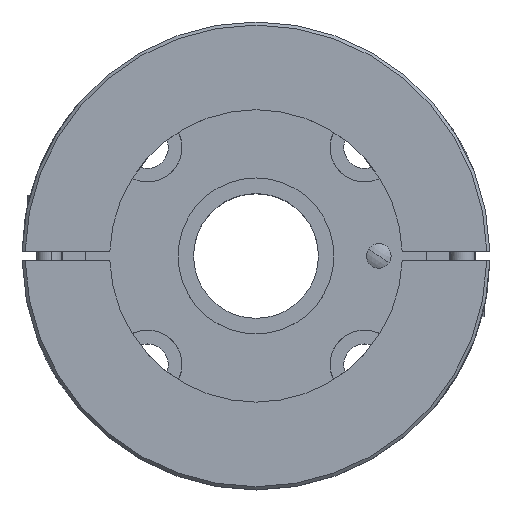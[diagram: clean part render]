
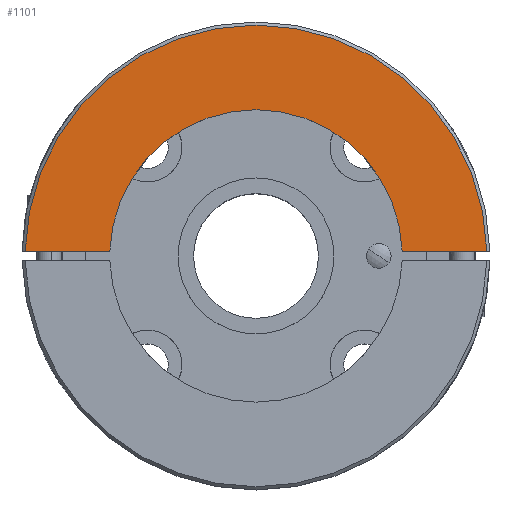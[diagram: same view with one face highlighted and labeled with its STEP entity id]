
A CAD part, top view. The second image highlights one B-rep face of the part: STEP entity #1101.
In plain terms, the highlighted planar face has unit normal (0, 0, 1).
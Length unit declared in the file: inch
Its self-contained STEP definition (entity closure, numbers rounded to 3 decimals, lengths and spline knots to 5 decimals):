
#19 = LINE ( 'NONE', #3104, #3351 ) ;
#25 = ORIENTED_EDGE ( 'NONE', *, *, #4258, .F. ) ;
#258 = VECTOR ( 'NONE', #4328, 39.37008 ) ;
#424 = DIRECTION ( 'NONE',  ( -1., 0., 0. ) ) ;
#425 = CIRCLE ( 'NONE', #3206, 1.48 ) ;
#492 = LINE ( 'NONE', #3191, #258 ) ;
#493 = VERTEX_POINT ( 'NONE', #2249 ) ;
#747 = ORIENTED_EDGE ( 'NONE', *, *, #4409, .T. ) ;
#881 = EDGE_CURVE ( 'NONE', #493, #4159, #2450, .T. ) ;
#928 = AXIS2_PLACEMENT_3D ( 'NONE', #2716, #2451, #3099 ) ;
#1056 = EDGE_LOOP ( 'NONE', ( #25, #747, #4190, #2721 ) ) ;
#1101 = ADVANCED_FACE ( 'NONE', ( #3175 ), #2792, .T. ) ;
#1328 = DIRECTION ( 'NONE',  ( 0., 0., 1. ) ) ;
#1672 = CARTESIAN_POINT ( 'NONE',  ( -1.47968, 0.031, 0.24975 ) ) ;
#2188 = CARTESIAN_POINT ( 'NONE',  ( 0., 0., 0.24975 ) ) ;
#2249 = CARTESIAN_POINT ( 'NONE',  ( -0.93699, 0.031, 0.24975 ) ) ;
#2302 = EDGE_CURVE ( 'NONE', #493, #3553, #492, .T. ) ;
#2450 = CIRCLE ( 'NONE', #3944, 0.9375 ) ;
#2451 = DIRECTION ( 'NONE',  ( 0., 0., 1. ) ) ;
#2716 = CARTESIAN_POINT ( 'NONE',  ( -0.9375, 0., 0.24975 ) ) ;
#2721 = ORIENTED_EDGE ( 'NONE', *, *, #881, .T. ) ;
#2792 = PLANE ( 'NONE',  #928 ) ;
#2895 = CARTESIAN_POINT ( 'NONE',  ( 0.93699, 0.031, 0.24975 ) ) ;
#3099 = DIRECTION ( 'NONE',  ( 0., 1., 0. ) ) ;
#3104 = CARTESIAN_POINT ( 'NONE',  ( -0.9375, 0.031, 0.24975 ) ) ;
#3175 = FACE_OUTER_BOUND ( 'NONE', #1056, .T. ) ;
#3191 = CARTESIAN_POINT ( 'NONE',  ( -0.9375, 0.031, 0.24975 ) ) ;
#3206 = AXIS2_PLACEMENT_3D ( 'NONE', #3960, #1328, #3566 ) ;
#3351 = VECTOR ( 'NONE', #424, 39.37008 ) ;
#3409 = CARTESIAN_POINT ( 'NONE',  ( 1.47968, 0.031, 0.24975 ) ) ;
#3553 = VERTEX_POINT ( 'NONE', #1672 ) ;
#3566 = DIRECTION ( 'NONE',  ( 0., 1., 0. ) ) ;
#3608 = DIRECTION ( 'NONE',  ( 0., 0., -1. ) ) ;
#3829 = VERTEX_POINT ( 'NONE', #3409 ) ;
#3944 = AXIS2_PLACEMENT_3D ( 'NONE', #2188, #3608, #4431 ) ;
#3960 = CARTESIAN_POINT ( 'NONE',  ( 0., 0., 0.24975 ) ) ;
#4159 = VERTEX_POINT ( 'NONE', #2895 ) ;
#4190 = ORIENTED_EDGE ( 'NONE', *, *, #2302, .F. ) ;
#4258 = EDGE_CURVE ( 'NONE', #3829, #4159, #19, .T. ) ;
#4328 = DIRECTION ( 'NONE',  ( -1., 0., 0. ) ) ;
#4409 = EDGE_CURVE ( 'NONE', #3829, #3553, #425, .T. ) ;
#4431 = DIRECTION ( 'NONE',  ( 0., -1., 0. ) ) ;
